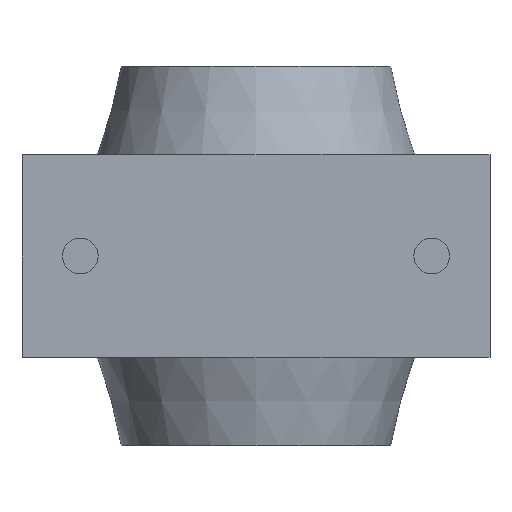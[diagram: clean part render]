
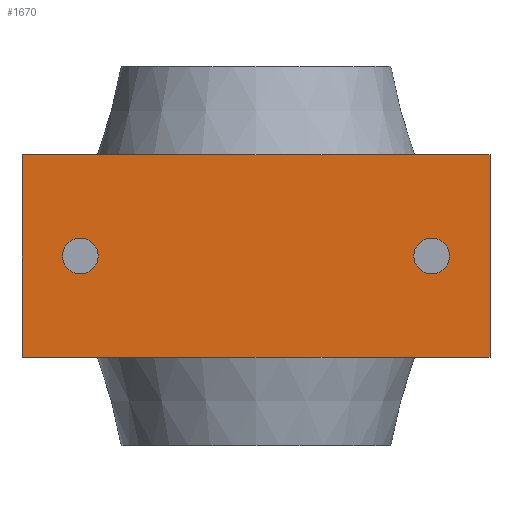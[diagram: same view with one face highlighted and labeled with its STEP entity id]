
A CAD part, front view. The second image highlights one B-rep face of the part: STEP entity #1670.
In plain terms, the highlighted planar face has unit normal (0, -1, 0).
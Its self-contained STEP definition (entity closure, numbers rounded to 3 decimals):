
#105=FACE_BOUND('',#300,.T.);
#106=FACE_BOUND('',#301,.T.);
#139=PLANE('',#1913);
#198=FACE_OUTER_BOUND('',#299,.T.);
#299=EDGE_LOOP('',(#1209,#1210,#1211,#1212));
#300=EDGE_LOOP('',(#1213,#1214));
#301=EDGE_LOOP('',(#1215,#1216));
#418=LINE('',#2757,#505);
#425=LINE('',#2773,#512);
#434=LINE('',#2808,#521);
#435=LINE('',#2810,#522);
#505=VECTOR('',#2165,10.);
#512=VECTOR('',#2178,10.);
#521=VECTOR('',#2221,10.);
#522=VECTOR('',#2224,10.);
#584=CIRCLE('',#1860,4.188);
#585=CIRCLE('',#1861,4.188);
#588=CIRCLE('',#1866,4.188);
#589=CIRCLE('',#1867,4.188);
#690=VERTEX_POINT('',#2686);
#691=VERTEX_POINT('',#2687);
#694=VERTEX_POINT('',#2697);
#695=VERTEX_POINT('',#2698);
#717=VERTEX_POINT('',#2754);
#718=VERTEX_POINT('',#2756);
#723=VERTEX_POINT('',#2770);
#724=VERTEX_POINT('',#2772);
#855=EDGE_CURVE('',#690,#691,#584,.T.);
#856=EDGE_CURVE('',#691,#690,#585,.T.);
#860=EDGE_CURVE('',#694,#695,#588,.T.);
#861=EDGE_CURVE('',#695,#694,#589,.T.);
#888=EDGE_CURVE('',#718,#717,#418,.T.);
#896=EDGE_CURVE('',#724,#723,#425,.T.);
#915=EDGE_CURVE('',#717,#724,#434,.T.);
#916=EDGE_CURVE('',#723,#718,#435,.T.);
#1209=ORIENTED_EDGE('',*,*,#915,.T.);
#1210=ORIENTED_EDGE('',*,*,#896,.T.);
#1211=ORIENTED_EDGE('',*,*,#916,.T.);
#1212=ORIENTED_EDGE('',*,*,#888,.T.);
#1213=ORIENTED_EDGE('',*,*,#855,.T.);
#1214=ORIENTED_EDGE('',*,*,#856,.T.);
#1215=ORIENTED_EDGE('',*,*,#860,.T.);
#1216=ORIENTED_EDGE('',*,*,#861,.T.);
#1670=ADVANCED_FACE('',(#198,#105,#106),#139,.F.);
#1860=AXIS2_PLACEMENT_3D('',#2688,#2091,#2092);
#1861=AXIS2_PLACEMENT_3D('',#2689,#2093,#2094);
#1866=AXIS2_PLACEMENT_3D('',#2699,#2104,#2105);
#1867=AXIS2_PLACEMENT_3D('',#2700,#2106,#2107);
#1913=AXIS2_PLACEMENT_3D('',#2811,#2225,#2226);
#2091=DIRECTION('center_axis',(0.,1.,0.));
#2092=DIRECTION('ref_axis',(-1.,0.,0.));
#2093=DIRECTION('center_axis',(0.,1.,0.));
#2094=DIRECTION('ref_axis',(-1.,0.,0.));
#2104=DIRECTION('center_axis',(0.,1.,0.));
#2105=DIRECTION('ref_axis',(-1.,0.,0.));
#2106=DIRECTION('center_axis',(0.,1.,0.));
#2107=DIRECTION('ref_axis',(-1.,0.,0.));
#2165=DIRECTION('',(1.,0.,0.));
#2178=DIRECTION('',(-1.,0.,0.));
#2221=DIRECTION('',(0.,0.,1.));
#2224=DIRECTION('',(0.,0.,-1.));
#2225=DIRECTION('center_axis',(0.,1.,0.));
#2226=DIRECTION('ref_axis',(0.,0.,1.));
#2686=CARTESIAN_POINT('',(-45.488,-47.6,0.));
#2687=CARTESIAN_POINT('',(-37.112,-47.6,0.));
#2688=CARTESIAN_POINT('Origin',(-41.3,-47.6,0.));
#2689=CARTESIAN_POINT('Origin',(-41.3,-47.6,0.));
#2697=CARTESIAN_POINT('',(37.112,-47.6,0.));
#2698=CARTESIAN_POINT('',(45.488,-47.6,0.));
#2699=CARTESIAN_POINT('Origin',(41.3,-47.6,0.));
#2700=CARTESIAN_POINT('Origin',(41.3,-47.6,0.));
#2754=CARTESIAN_POINT('',(55.,-47.6,-23.75));
#2756=CARTESIAN_POINT('',(-55.,-47.6,-23.75));
#2757=CARTESIAN_POINT('',(27.5,-47.6,-23.75));
#2770=CARTESIAN_POINT('',(-55.,-47.6,23.75));
#2772=CARTESIAN_POINT('',(55.,-47.6,23.75));
#2773=CARTESIAN_POINT('',(-27.5,-47.6,23.75));
#2808=CARTESIAN_POINT('',(55.,-47.6,11.875));
#2810=CARTESIAN_POINT('',(-55.,-47.6,-11.875));
#2811=CARTESIAN_POINT('Origin',(0.,-47.6,0.));
